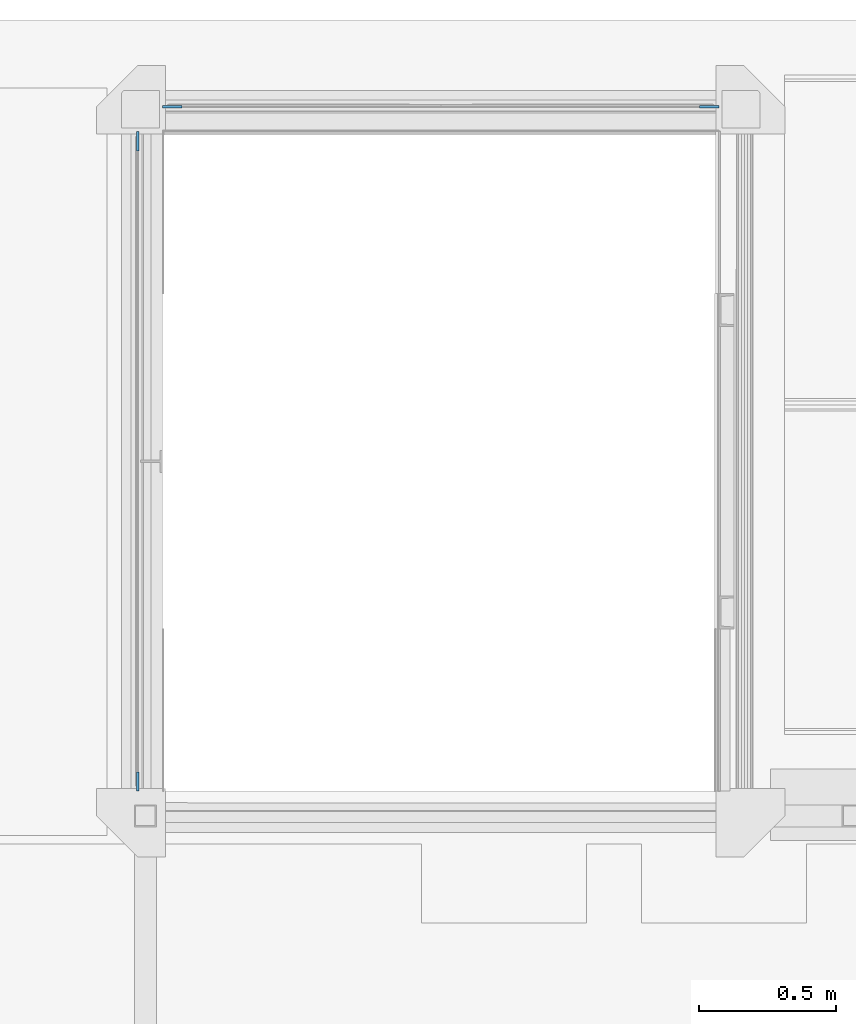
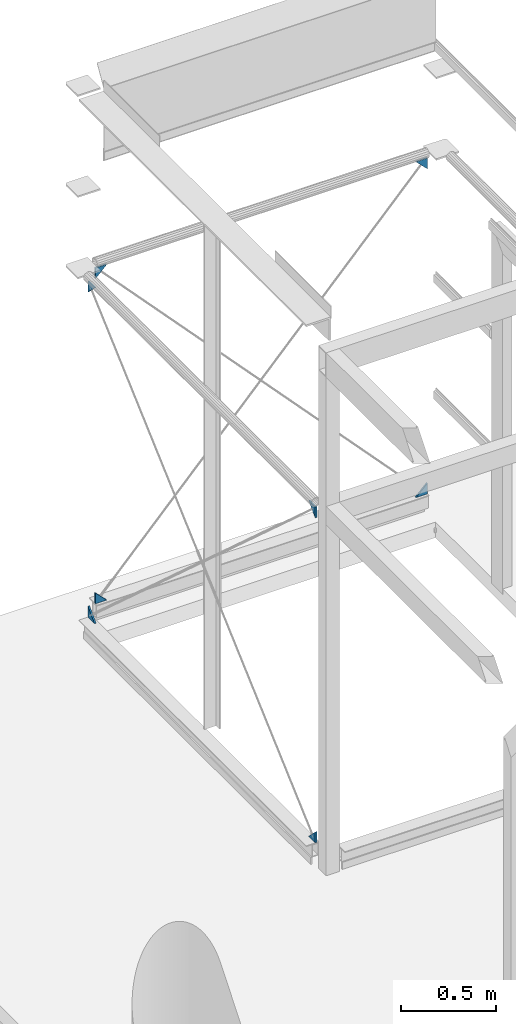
# One storey, part 6 of 15: 8 columns.
"""IFC2X3 building model written with IfcOpenShell, lengths in millimetres."""

from ifc_helpers import new_model, entity, si_unit, converted_unit, derived_unit, direction, frame, origin_with_axes, place, context, subcontext, project, spatial, faceted_brep, material, type_object, element, save


model = new_model("IFC2X3")

# Units and contexts
model_context = context("Model", 3, precision=0.01, world=frame((0.0, 4.29681676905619e-09, 0.0)), true_north=direction((4.01073788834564e-13, 1.0)))
plan_context = context("Plan", 3, precision=0.01, world=frame((0.0, 4.29681676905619e-09, 0.0)), true_north=direction((4.01073788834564e-13, 1.0)))
body_context = subcontext(model_context, "Body", "Model", "MODEL_VIEW")
ifc_project = project(units=[converted_unit("PLANEANGLEUNIT", "DEGREE", entity("IfcPositiveLengthMeasure", 0.0174532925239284), si_unit("PLANEANGLEUNIT", "RADIAN"), dimensions=[0, 0, 0, 0, 0, 0, 0]), si_unit("AREAUNIT", "SQUARE_METRE"), si_unit("LENGTHUNIT", "METRE", prefix="MILLI"), si_unit("MASSUNIT", "GRAM", prefix="KILO"), si_unit("POWERUNIT", "WATT"), si_unit("PRESSUREUNIT", "PASCAL", prefix="KILO"), si_unit("FORCEUNIT", "NEWTON", prefix="KILO"), si_unit("ELECTRICVOLTAGEUNIT", "VOLT"), si_unit("ELECTRICCURRENTUNIT", "AMPERE"), si_unit("THERMODYNAMICTEMPERATUREUNIT", "DEGREE_CELSIUS"), si_unit("TIMEUNIT", "SECOND"), si_unit("VOLUMEUNIT", "CUBIC_METRE"), derived_unit("LINEARVELOCITYUNIT", [(si_unit("LENGTHUNIT", "METRE"), 1), (si_unit("TIMEUNIT", "SECOND"), -1)]), derived_unit("VOLUMETRICFLOWRATEUNIT", [(si_unit("VOLUMEUNIT", "CUBIC_METRE"), 1), (si_unit("TIMEUNIT", "SECOND"), -1)]), derived_unit("THERMALTRANSMITTANCEUNIT", [(si_unit("POWERUNIT", "WATT"), 1), (si_unit("THERMODYNAMICTEMPERATUREUNIT", "KELVIN"), -1), (si_unit("AREAUNIT", "SQUARE_METRE"), -1)]), derived_unit("SOUNDPRESSUREUNIT", [(si_unit("PRESSUREUNIT", "PASCAL"), 1)])], contexts=[model_context, plan_context])

# Site, building, storey
site_placement = place(None, frame((0.0, -4.29681676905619e-09, 0.0), z_axis=(0.0, 0.0, 1.0), x_axis=(1.0, 0.0, 0.0)))
site = spatial("IfcSite", under=ifc_project, at=site_placement, Name="Gardermoen", CompositionType="ELEMENT")
building_placement = place(site_placement, frame((0.0, 4.29681676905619e-09, 0.0), z_axis=(0.0, 0.0, 1.0), x_axis=(1.0, 0.0, 0.0)))
building = spatial("IfcBuilding", under=site, at=building_placement, Name="TG", CompositionType="ELEMENT")
storey_placement = place(building_placement, origin_with_axes())
storey = spatial("IfcBuildingStorey", under=building, at=storey_placement, Name="F", CompositionType="ELEMENT", Elevation=0.0)

# Columns
ifc_material = material(Name="STEEL/S355")
column_type = type_object("IfcColumnType", Name="PL10*70", PredefinedType="NOTDEFINED")
for number, where, z_axis, x_axis in (
    (1, (323897.840244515, 467094.829521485, 212424.850241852), (0.0, -1.0, 0.0), (0.0, 0.0, -1.0)),
    (2, (323897.840244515, 464694.917046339, 212424.85132373), (0.0, 0.0, -1.0), (0.0, 1.0, 0.0)),
):
    element("IfcColumn", number, at=place(storey_placement, frame(where, z_axis=z_axis, x_axis=x_axis)), inside=storey, type_object=column_type, material=ifc_material, Name="STÅLSØYLE", ObjectType="PL10*70", context=body_context, shape_type="Brep", body=[
        faceted_brep([(5.82076609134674e-11, -5.0, 2.91038304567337e-11), (-0.00108032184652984, -5.0, 70.1646423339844), (-0.00108032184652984, 5.0, 70.1646423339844), (5.82076609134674e-11, 5.0, 2.91038304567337e-11), (70.1656036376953, -5.0, 0.0), (70.1656036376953, 5.0, 0.0)], [[[0, 1, 2, 3]], [[1, 4, 5, 2]], [[4, 0, 3, 5]], [[5, 3, 2]], [[4, 1, 0]]]),
    ])
column_1_placement = place(storey_placement, frame((323897.840244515, 467094.829521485, 210330.165737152), z_axis=(0.0, -1.0, 0.0), x_axis=(0.0, 0.0, -1.0)))
element("IfcColumn", 3, at=column_1_placement, inside=storey, type_object=column_type, material=ifc_material, Name="STÅLSØYLE", ObjectType="PL10*70", context=body_context, shape_type="Brep", body=[
    faceted_brep([(5.82076609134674e-11, -5.0, 2.91038304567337e-11), (70.1656036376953, -5.0, 70.1646423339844), (70.1656036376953, 5.0, 70.1646423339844), (5.82076609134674e-11, 5.0, 2.91038304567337e-11), (70.1656036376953, -5.0, 0.0), (70.1656036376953, 5.0, 0.0)], [[[0, 1, 2, 3]], [[1, 4, 5, 2]], [[4, 0, 3, 5]], [[5, 3, 2]], [[4, 1, 0]]]),
])
column_2_placement = place(storey_placement, frame((323897.840244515, 464694.917046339, 210330.000781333), z_axis=(0.0, -0.707111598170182, -0.707101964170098), x_axis=(0.0, 0.707101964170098, -0.707111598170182)))
element("IfcColumn", 4, at=column_2_placement, inside=storey, type_object=column_type, material=ifc_material, Name="STÅLSØYLE", ObjectType="PL10*70", context=body_context, shape_type="Brep", body=[
    faceted_brep([(5.82076609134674e-11, -5.0, 2.91038304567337e-11), (49.4982719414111, -5.0, 49.4975967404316), (49.4982719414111, 5.0, 49.4975967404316), (5.82076609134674e-11, 5.0, 2.91038304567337e-11), (98.9951934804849, -5.0, -1.62981450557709e-09), (98.9951934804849, 5.0, -1.62981450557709e-09)], [[[0, 1, 2, 3]], [[1, 4, 5, 2]], [[4, 0, 3, 5]], [[5, 3, 2]], [[4, 1, 0]]]),
])
for number, where, z_axis, x_axis in (
    (5, (326012.017138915, 467184.829521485, 212424.850241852), (-1.0, 0.0, 0.0), (0.0, 0.0, -1.0)),
    (6, (323987.857743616, 467184.829521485, 212424.85132373), (0.0, 0.0, -1.0), (1.0, 0.0, 0.0)),
):
    element("IfcColumn", number, at=place(storey_placement, frame(where, z_axis=z_axis, x_axis=x_axis)), inside=storey, type_object=column_type, material=ifc_material, Name="STÅLSØYLE", ObjectType="PL10*70", context=body_context, shape_type="Brep", body=[
        faceted_brep([(5.82076609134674e-11, -5.0, 2.91038304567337e-11), (-0.00108032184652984, -5.0, 70.1646423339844), (-0.00108032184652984, 5.0, 70.1646423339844), (5.82076609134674e-11, 5.0, 2.91038304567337e-11), (70.1656036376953, -5.0, 0.0), (70.1656036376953, 5.0, 0.0)], [[[0, 1, 2, 3]], [[1, 4, 5, 2]], [[4, 0, 3, 5]], [[5, 3, 2]], [[4, 1, 0]]]),
    ])
column_3_placement = place(storey_placement, frame((326012.017138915, 467184.829521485, 210330.165737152), z_axis=(-1.0, 0.0, 0.0), x_axis=(0.0, 0.0, -1.0)))
element("IfcColumn", 7, at=column_3_placement, inside=storey, type_object=column_type, material=ifc_material, Name="STÅLSØYLE", ObjectType="PL10*70", context=body_context, shape_type="Brep", body=[
    faceted_brep([(5.82076609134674e-11, -5.0, 2.91038304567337e-11), (70.1656036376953, -5.0, 70.1646423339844), (70.1656036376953, 5.0, 70.1646423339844), (5.82076609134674e-11, 5.0, 2.91038304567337e-11), (70.1656036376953, -5.0, 0.0), (70.1656036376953, 5.0, 0.0)], [[[0, 1, 2, 3]], [[1, 4, 5, 2]], [[4, 0, 3, 5]], [[5, 3, 2]], [[4, 1, 0]]]),
])
column_4_placement = place(storey_placement, frame((323987.857743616, 467184.829521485, 210330.000781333), z_axis=(-0.707111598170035, 0.0, -0.707101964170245), x_axis=(0.707101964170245, 0.0, -0.707111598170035)))
element("IfcColumn", 8, at=column_4_placement, inside=storey, type_object=column_type, material=ifc_material, Name="STÅLSØYLE", ObjectType="PL10*70", context=body_context, shape_type="Brep", body=[
    faceted_brep([(5.82076609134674e-11, -5.0, 2.91038304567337e-11), (49.4982719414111, -5.0, 49.4975967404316), (49.4982719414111, 5.0, 49.4975967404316), (5.82076609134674e-11, 5.0, 2.91038304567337e-11), (98.9951934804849, -5.0, -1.62981450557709e-09), (98.9951934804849, 5.0, -1.62981450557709e-09)], [[[0, 1, 2, 3]], [[1, 4, 5, 2]], [[4, 0, 3, 5]], [[5, 3, 2]], [[4, 1, 0]]]),
])

save(model, "model.ifc")
